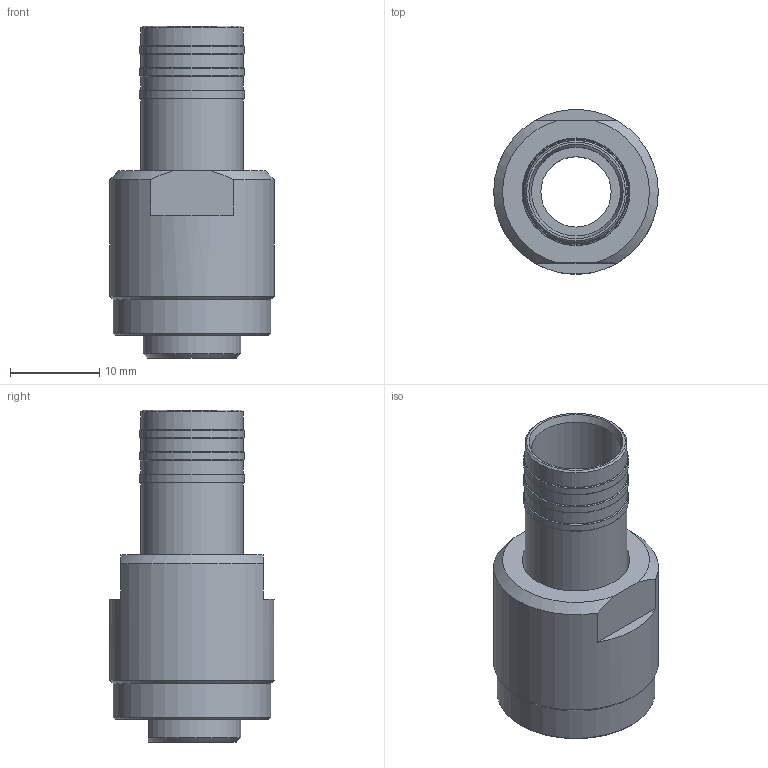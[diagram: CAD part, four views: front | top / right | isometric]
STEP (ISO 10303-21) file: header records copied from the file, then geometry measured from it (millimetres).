
FILE_DESCRIPTION (( 'STEP AP203' ), '1' );
FILE_NAME ('COB-31X1 Termination Kit Large.STEP', '2022-05-26T18:59:53', ( '' ), ( '' ), 'SwSTEP 2.0', 'SolidWorks 2020', '' );
FILE_SCHEMA (( 'CONFIG_CONTROL_DESIGN' ));
Length unit declared in the file: millimetre
Products named in the file (1): COB-31X1 Termination Kit Large
Bounding box: 18.5 x 18.5 x 37.3 mm (x, y, z)
Volume: 2917.8 mm3; surface area: 5137.4 mm2
Topology: 2 solids, 2 shells, 67 faces, 130 edges, 81 vertices
Faces by surface type: plane 25, cylinder 20, cone 15, torus 4, bspline 3
Full cylindrical faces by diameter (mm): 7.9 x1, 8.24 x1, 9.562 x1, 10 x1, 11.5 x4, 11.8 x3, 12 x2, 12.1 x1, 13.5 x1, 16 x1, 17.75 x1, 18.5 x1
Entity records: 4166 total; most frequent: CARTESIAN_POINT 2863, DIRECTION 265, ORIENTED_EDGE 188, AXIS2_PLACEMENT_3D 126, EDGE_LOOP 119, EDGE_CURVE 94, FACE_OUTER_BOUND 89, VERTEX_POINT 79
